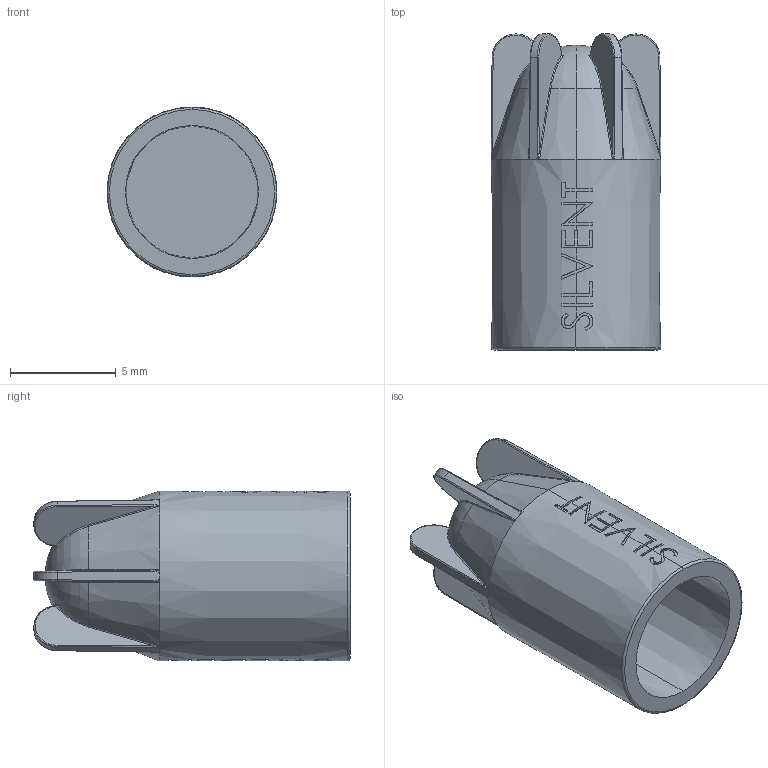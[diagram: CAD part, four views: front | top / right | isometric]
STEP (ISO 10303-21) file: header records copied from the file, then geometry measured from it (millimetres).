
FILE_DESCRIPTION (( 'STEP AP203' ), '1' );
FILE_NAME ('Silvent 1001.STEP', '2003-09-23T11:45:01', ( 'Ulf Persson' ), ( '' ), 'SwSTEP 2.0', 'SolidWorks 2003099', '' );
FILE_SCHEMA (( 'CONFIG_CONTROL_DESIGN' ));
Length unit declared in the file: millimetre
Products named in the file (1): Silvent 1001
Bounding box: 8.03 x 14.93 x 8.03 mm (x, y, z)
Volume: 351.5 mm3; surface area: 652.8 mm2
Topology: 1 solids, 1 shells, 317 faces, 857 edges, 532 vertices
Faces by surface type: plane 150, bspline 121, cylinder 22, cone 20, torus 4
Entity records: 20434 total; most frequent: CARTESIAN_POINT 13542, ORIENTED_EDGE 1690, DIRECTION 1035, EDGE_CURVE 845, VERTEX_POINT 532, AXIS2_PLACEMENT_3D 359, EDGE_LOOP 319, LINE 317
